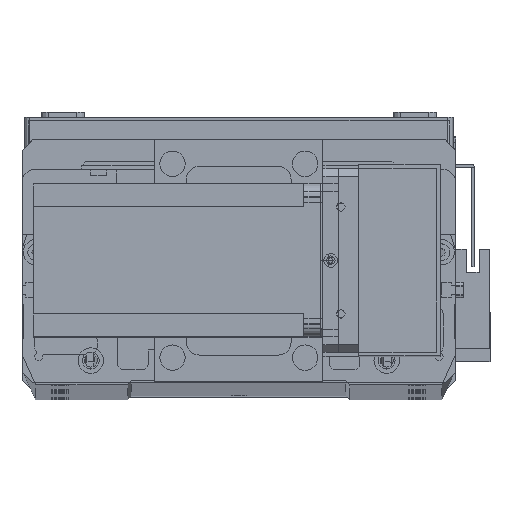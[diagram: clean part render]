
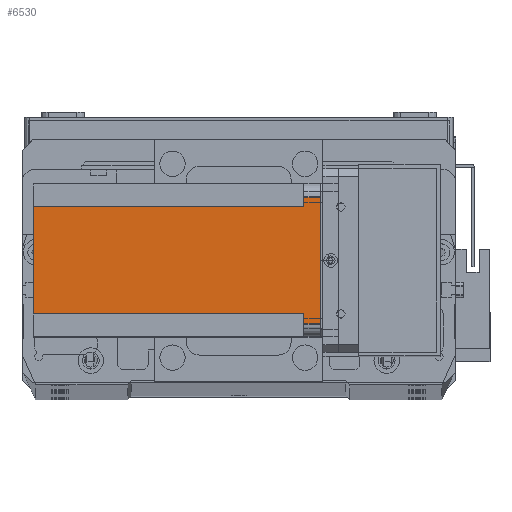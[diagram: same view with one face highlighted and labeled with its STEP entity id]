
A CAD part, top view. The second image highlights one B-rep face of the part: STEP entity #6530.
In plain terms, the highlighted planar face has unit normal (0, 0, 1) as drawn and (-1, 0, 0) by its records, which use the part's own axes.
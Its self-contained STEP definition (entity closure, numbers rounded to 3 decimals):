
#583 = DIRECTION ( 'NONE',  ( 0., 0., -1. ) ) ;
#961 = AXIS2_PLACEMENT_3D ( 'NONE', #23787, #18534, #2602 ) ;
#1447 = CARTESIAN_POINT ( 'NONE',  ( 0., 9., -112.5 ) ) ;
#2402 = VECTOR ( 'NONE', #6457, 1000. ) ;
#2602 = DIRECTION ( 'NONE',  ( 0., -1., 0. ) ) ;
#2889 = CARTESIAN_POINT ( 'NONE',  ( 0., 5., -6.5 ) ) ;
#3232 = LINE ( 'NONE', #16236, #9497 ) ;
#4007 = LINE ( 'NONE', #27638, #18141 ) ;
#4195 = CARTESIAN_POINT ( 'NONE',  ( 0., 60., -6.5 ) ) ;
#4424 = VECTOR ( 'NONE', #33423, 1000. ) ;
#4737 = EDGE_CURVE ( 'NONE', #18228, #9892, #8634, .T. ) ;
#5559 = ORIENTED_EDGE ( 'NONE', *, *, #17219, .F. ) ;
#6457 = DIRECTION ( 'NONE',  ( 0., 0., 1. ) ) ;
#6530 = ADVANCED_FACE ( 'NONE', ( #32627 ), #15859, .T. ) ;
#7024 = VECTOR ( 'NONE', #22778, 1000. ) ;
#7293 = ORIENTED_EDGE ( 'NONE', *, *, #17108, .F. ) ;
#8430 = LINE ( 'NONE', #26005, #21740 ) ;
#8554 = EDGE_LOOP ( 'NONE', ( #30264, #33804, #28188, #16167, #19942, #7293, #18733, #5559 ) ) ;
#8634 = LINE ( 'NONE', #22358, #2402 ) ;
#9032 = EDGE_CURVE ( 'NONE', #9936, #31807, #20336, .T. ) ;
#9355 = EDGE_CURVE ( 'NONE', #18228, #32294, #3232, .T. ) ;
#9497 = VECTOR ( 'NONE', #18905, 1000. ) ;
#9848 = CARTESIAN_POINT ( 'NONE',  ( 0., 5., 0. ) ) ;
#9892 = VERTEX_POINT ( 'NONE', #9848 ) ;
#9936 = VERTEX_POINT ( 'NONE', #17973 ) ;
#10056 = CARTESIAN_POINT ( 'NONE',  ( 0., 9., -112.5 ) ) ;
#11464 = LINE ( 'NONE', #1447, #4424 ) ;
#11486 = CARTESIAN_POINT ( 'NONE',  ( 0., 55., -6.5 ) ) ;
#13093 = CARTESIAN_POINT ( 'NONE',  ( 0., 55., 0. ) ) ;
#13680 = CARTESIAN_POINT ( 'NONE',  ( 0., 51., -112.5 ) ) ;
#13848 = CARTESIAN_POINT ( 'NONE',  ( 0., 55., -112.5 ) ) ;
#14418 = VERTEX_POINT ( 'NONE', #10056 ) ;
#14465 = VECTOR ( 'NONE', #583, 1000. ) ;
#15859 = PLANE ( 'NONE',  #961 ) ;
#16167 = ORIENTED_EDGE ( 'NONE', *, *, #25709, .T. ) ;
#16236 = CARTESIAN_POINT ( 'NONE',  ( 0., 0., -6.5 ) ) ;
#16389 = CARTESIAN_POINT ( 'NONE',  ( 0., 0., -112.5 ) ) ;
#16932 = DIRECTION ( 'NONE',  ( 0., 0., 1. ) ) ;
#17108 = EDGE_CURVE ( 'NONE', #25082, #9936, #4007, .T. ) ;
#17219 = EDGE_CURVE ( 'NONE', #32294, #14418, #11464, .T. ) ;
#17973 = CARTESIAN_POINT ( 'NONE',  ( 0., 51., -6.5 ) ) ;
#18141 = VECTOR ( 'NONE', #16932, 1000. ) ;
#18228 = VERTEX_POINT ( 'NONE', #2889 ) ;
#18290 = EDGE_CURVE ( 'NONE', #25082, #14418, #30959, .T. ) ;
#18534 = DIRECTION ( 'NONE',  ( -1., 0., 0. ) ) ;
#18733 = ORIENTED_EDGE ( 'NONE', *, *, #18290, .T. ) ;
#18905 = DIRECTION ( 'NONE',  ( 0., 1., 0. ) ) ;
#19942 = ORIENTED_EDGE ( 'NONE', *, *, #9032, .F. ) ;
#20336 = LINE ( 'NONE', #4195, #7024 ) ;
#21740 = VECTOR ( 'NONE', #34010, 1000. ) ;
#22358 = CARTESIAN_POINT ( 'NONE',  ( 0., 5., -112.5 ) ) ;
#22778 = DIRECTION ( 'NONE',  ( 0., 1., 0. ) ) ;
#23787 = CARTESIAN_POINT ( 'NONE',  ( 0., 0., -112.5 ) ) ;
#25082 = VERTEX_POINT ( 'NONE', #13680 ) ;
#25709 = EDGE_CURVE ( 'NONE', #33750, #31807, #29482, .T. ) ;
#26005 = CARTESIAN_POINT ( 'NONE',  ( 0., 0., 0. ) ) ;
#27638 = CARTESIAN_POINT ( 'NONE',  ( 0., 51., -112.5 ) ) ;
#28188 = ORIENTED_EDGE ( 'NONE', *, *, #32052, .F. ) ;
#29482 = LINE ( 'NONE', #13848, #14465 ) ;
#29852 = CARTESIAN_POINT ( 'NONE',  ( 0., 9., -6.5 ) ) ;
#30143 = VECTOR ( 'NONE', #32436, 1000. ) ;
#30264 = ORIENTED_EDGE ( 'NONE', *, *, #9355, .F. ) ;
#30959 = LINE ( 'NONE', #16389, #30143 ) ;
#31807 = VERTEX_POINT ( 'NONE', #11486 ) ;
#32052 = EDGE_CURVE ( 'NONE', #33750, #9892, #8430, .T. ) ;
#32294 = VERTEX_POINT ( 'NONE', #29852 ) ;
#32436 = DIRECTION ( 'NONE',  ( 0., -1., 0. ) ) ;
#32627 = FACE_OUTER_BOUND ( 'NONE', #8554, .T. ) ;
#33423 = DIRECTION ( 'NONE',  ( 0., 0., -1. ) ) ;
#33750 = VERTEX_POINT ( 'NONE', #13093 ) ;
#33804 = ORIENTED_EDGE ( 'NONE', *, *, #4737, .T. ) ;
#34010 = DIRECTION ( 'NONE',  ( 0., -1., 0. ) ) ;
